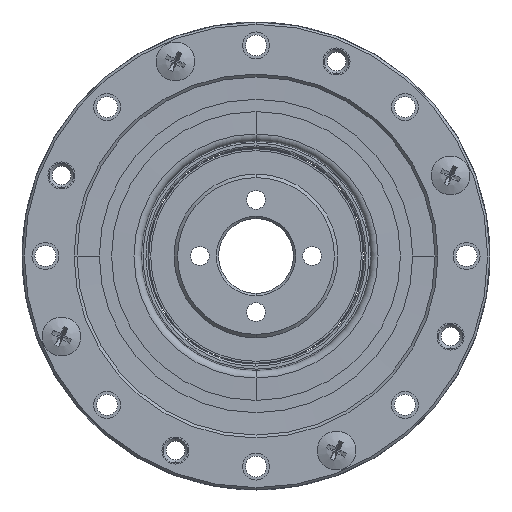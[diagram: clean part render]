
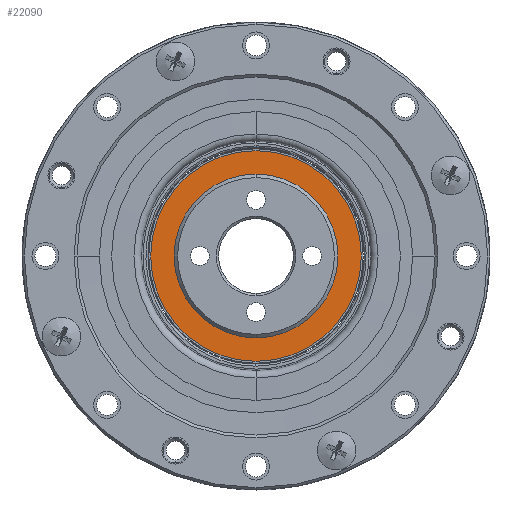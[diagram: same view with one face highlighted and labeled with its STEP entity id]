
A CAD part, left-side view. The second image highlights one B-rep face of the part: STEP entity #22090.
In plain terms, the highlighted planar face has unit normal (-1, 0, 0).
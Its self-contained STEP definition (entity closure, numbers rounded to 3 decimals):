
#12 = CARTESIAN_POINT ( 'NONE',  ( 14.285, 41.455, 55.295 ) ) ;
#988 = CARTESIAN_POINT ( 'NONE',  ( 14.285, 41.455, 46.295 ) ) ;
#1581 = AXIS2_PLACEMENT_3D ( 'NONE', #12875, #21016, #4500 ) ;
#1729 = CARTESIAN_POINT ( 'NONE',  ( 14.285, 41.455, 46.295 ) ) ;
#2402 = EDGE_CURVE ( 'NONE', #22967, #25085, #13069, .T. ) ;
#3353 = EDGE_LOOP ( 'NONE', ( #14155, #18660 ) ) ;
#3648 = VERTEX_POINT ( 'NONE', #5968 ) ;
#3738 = AXIS2_PLACEMENT_3D ( 'NONE', #988, #12282, #5284 ) ;
#3873 = DIRECTION ( 'NONE',  ( 0., 0., 1. ) ) ;
#4500 = DIRECTION ( 'NONE',  ( 0., 0., 1. ) ) ;
#5011 = AXIS2_PLACEMENT_3D ( 'NONE', #1729, #15997, #3873 ) ;
#5284 = DIRECTION ( 'NONE',  ( 0., 0., -1. ) ) ;
#5968 = CARTESIAN_POINT ( 'NONE',  ( 14.285, 41.455, 37.295 ) ) ;
#7136 = CIRCLE ( 'NONE', #3738, 9. ) ;
#7396 = FACE_BOUND ( 'NONE', #3353, .T. ) ;
#7880 = CARTESIAN_POINT ( 'NONE',  ( 14.285, 41.455, 39.295 ) ) ;
#9727 = EDGE_CURVE ( 'NONE', #25085, #22967, #25881, .T. ) ;
#9954 = EDGE_CURVE ( 'NONE', #21489, #3648, #7136, .T. ) ;
#12282 = DIRECTION ( 'NONE',  ( -1., 0., 0. ) ) ;
#12468 = AXIS2_PLACEMENT_3D ( 'NONE', #22010, #13733, #25883 ) ;
#12478 = ORIENTED_EDGE ( 'NONE', *, *, #18693, .T. ) ;
#12875 = CARTESIAN_POINT ( 'NONE',  ( 14.285, 41.455, 46.295 ) ) ;
#13069 = CIRCLE ( 'NONE', #1581, 7. ) ;
#13733 = DIRECTION ( 'NONE',  ( -1., 0., 0. ) ) ;
#14155 = ORIENTED_EDGE ( 'NONE', *, *, #2402, .F. ) ;
#15650 = CARTESIAN_POINT ( 'NONE',  ( 14.285, 41.455, 46.295 ) ) ;
#15796 = PLANE ( 'NONE',  #23838 ) ;
#15917 = DIRECTION ( 'NONE',  ( 0., 0., 1. ) ) ;
#15997 = DIRECTION ( 'NONE',  ( -1., 0., 0. ) ) ;
#17507 = FACE_OUTER_BOUND ( 'NONE', #23070, .T. ) ;
#17990 = CIRCLE ( 'NONE', #12468, 9. ) ;
#18602 = CARTESIAN_POINT ( 'NONE',  ( 14.285, 41.455, 53.295 ) ) ;
#18660 = ORIENTED_EDGE ( 'NONE', *, *, #9727, .F. ) ;
#18693 = EDGE_CURVE ( 'NONE', #3648, #21489, #17990, .T. ) ;
#21016 = DIRECTION ( 'NONE',  ( -1., 0., 0. ) ) ;
#21489 = VERTEX_POINT ( 'NONE', #12 ) ;
#22010 = CARTESIAN_POINT ( 'NONE',  ( 14.285, 41.455, 46.295 ) ) ;
#22090 = ADVANCED_FACE ( 'NONE', ( #17507, #7396 ), #15796, .T. ) ;
#22189 = ORIENTED_EDGE ( 'NONE', *, *, #9954, .T. ) ;
#22967 = VERTEX_POINT ( 'NONE', #18602 ) ;
#23070 = EDGE_LOOP ( 'NONE', ( #12478, #22189 ) ) ;
#23838 = AXIS2_PLACEMENT_3D ( 'NONE', #15650, #23942, #15917 ) ;
#23942 = DIRECTION ( 'NONE',  ( -1., 0., 0. ) ) ;
#25085 = VERTEX_POINT ( 'NONE', #7880 ) ;
#25881 = CIRCLE ( 'NONE', #5011, 7. ) ;
#25883 = DIRECTION ( 'NONE',  ( 0., 0., -1. ) ) ;
